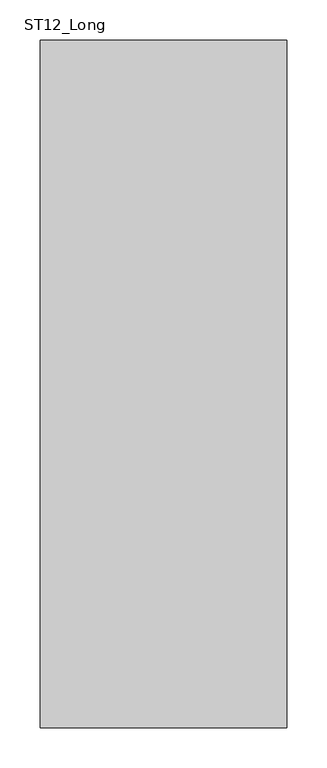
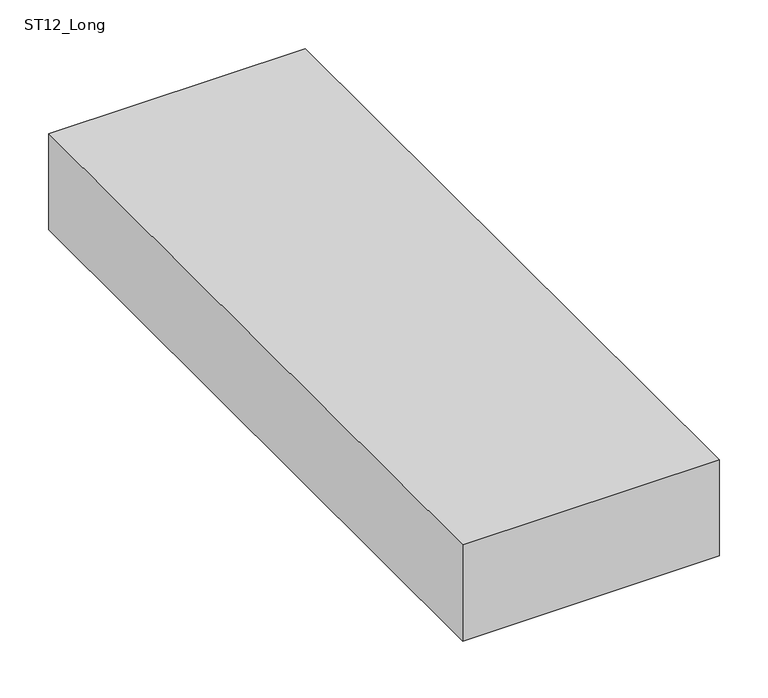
"""IFC4 building model written with IfcOpenShell, lengths in millimetres: furniture geometry, Memo_Candy_Table_Straight : ST12_Long."""

from ifc_helpers import new_model, si_unit, point, frame, frame_2d, origin, origin_with_axes, place, context, project, spatial, polyline, circle_curve, trimmed, segment, composite_curve, outline, extrude, source, transform, mapped, element, save


def st12_long_e446e66b(model_context):
    return source(origin(), model_context, "Body", "SweptSolid", [
        extrude(outline(composite_curve([segment(trimmed(circle_curve(frame_2d((95.25, -323.85)), 14.2875), [point((80.9625, -323.85))], [point((109.5375, -323.85))], False, "CARTESIAN"), True, "CONTINUOUS"), segment(trimmed(circle_curve(frame_2d((95.25, -323.85)), 14.2875), [point((109.5375, -323.85))], [point((80.9625, -323.85))], False, "CARTESIAN"), True, "CONTINUOUS")], self_intersect=False)), origin_with_axes(), (0.0, 0.0, 1.0), 10.2362),
        extrude(outline(composite_curve([segment(trimmed(circle_curve(frame_2d((95.25, 425.45)), 14.2875), [point((80.9625, 425.45))], [point((109.5375, 425.45))], False, "CARTESIAN"), True, "CONTINUOUS"), segment(trimmed(circle_curve(frame_2d((95.25, 425.45)), 14.2875), [point((109.5375, 425.45))], [point((80.9625, 425.45))], False, "CARTESIAN"), True, "CONTINUOUS")], self_intersect=False)), origin_with_axes(), (0.0, 0.0, 1.0), 10.2362),
        extrude(outline(composite_curve([segment(trimmed(circle_curve(frame_2d((-95.25, -323.85)), 14.2875), [point((-109.5375, -323.85))], [point((-80.9625, -323.85))], False, "CARTESIAN"), True, "CONTINUOUS"), segment(trimmed(circle_curve(frame_2d((-95.25, -323.85)), 14.2875), [point((-80.9625, -323.85))], [point((-109.5375, -323.85))], False, "CARTESIAN"), True, "CONTINUOUS")], self_intersect=False)), origin_with_axes(), (0.0, 0.0, 1.0), 10.2362),
        extrude(outline(composite_curve([segment(trimmed(circle_curve(frame_2d((-95.25, 425.45)), 14.2875), [point((-109.5375, 425.45))], [point((-80.9625, 425.45))], False, "CARTESIAN"), True, "CONTINUOUS"), segment(trimmed(circle_curve(frame_2d((-95.25, 425.45)), 14.2875), [point((-80.9625, 425.45))], [point((-109.5375, 425.45))], False, "CARTESIAN"), True, "CONTINUOUS")], self_intersect=False)), origin_with_axes(), (0.0, 0.0, 1.0), 10.2362),
        extrude(outline(polyline([(152.4, 476.25), (152.4, -374.65), (-152.4, -374.65), (-152.4, 476.25), (152.4, 476.25)])), frame((0.0, 0.0, 10.2362), z_axis=(0.0, 0.0, 1.0), x_axis=(1.0, 0.0, 0.0)), (0.0, 0.0, 1.0), 120.65),
    ])


if __name__ == "__main__":
    model = new_model("IFC4")
    model_context = context("Model", 3, world=origin())
    ifc_project = project(units=[si_unit("LENGTHUNIT", "METRE", prefix="MILLI")], contexts=[model_context])
    site = spatial("IfcSite", under=ifc_project)
    building = spatial("IfcBuilding", under=site)
    placement = place(None, origin())
    st12_long_shape = st12_long_e446e66b(model_context)
    element("IfcFurniture", 1, ObjectType="Memo_Candy_Table_Straight : ST12_Long", at=placement, inside=building, context=model_context, shape_type="MappedRepresentation", body=[
        mapped(st12_long_shape, transform((0.0, 0.0, 0.0), x_axis=(1.0, 0.0, 0.0), y_axis=(0.0, 1.0, 0.0), z_axis=(0.0, 0.0, 1.0))),
    ])
    save(model, "model.ifc")
